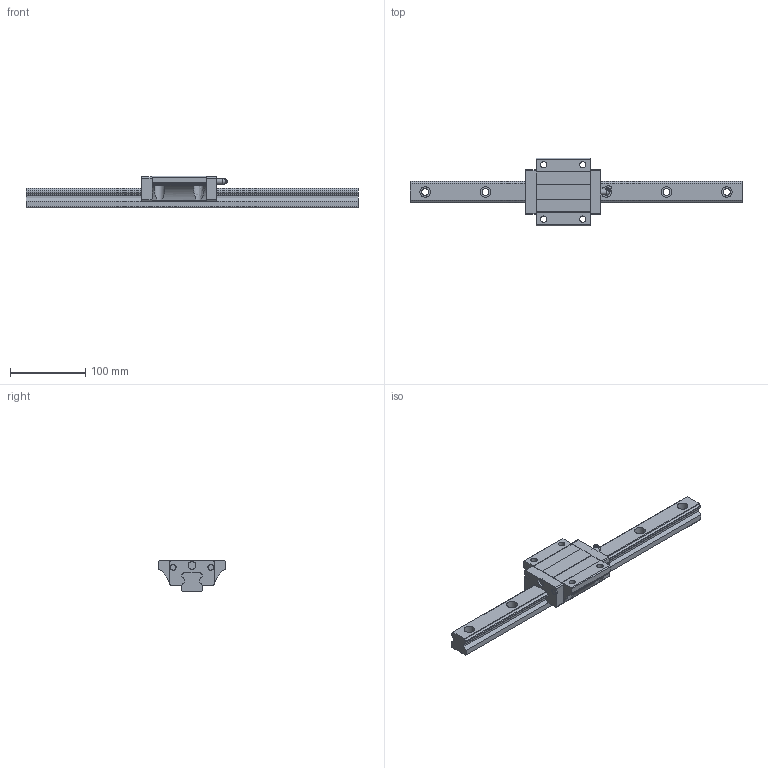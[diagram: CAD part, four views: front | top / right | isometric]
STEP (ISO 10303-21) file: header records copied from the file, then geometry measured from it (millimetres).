
FILE_DESCRIPTION((''),'2;1');
FILE_NAME('D:\製品 (図面)\カタログ用3D\リニアガイド関連\STEP形式\LGH-F\LGH30F.stp','2010-06-02T15:50:55',('Tsuchiya'),(''),'Autodesk Inventor 10','Autodesk Inventor 10','');
FILE_SCHEMA(('AUTOMOTIVE_DESIGN { 1 0 10303 214 1 1 1 1 }'));
Length unit declared in the file: millimetre
Products named in the file (3): LGH30F; LGH30F1; LGH30F2
Assembly tree (2 placements, depth 2):
  LGH30F
    LGH30F1
    LGH30F2
Bounding box: 440 x 90 x 42 mm (x, y, z)
Volume: 452652.4 mm3; surface area: 86539.6 mm2
Topology: 2 solids, 2 shells, 175 faces, 464 edges, 307 vertices
Faces by surface type: plane 89, cylinder 43, bspline 38, sphere 3, cone 2
Full cylindrical faces by diameter (mm): 7 x1, 7.5 x2, 7.7 x1, 8 x2, 8.376 x2, 10.5 x1
Entity records: 5844 total; most frequent: CARTESIAN_POINT 1577, ORIENTED_EDGE 844, DIRECTION 838, EDGE_CURVE 422, VERTEX_POINT 302, AXIS2_PLACEMENT_3D 286, VECTOR 266, LINE 266
